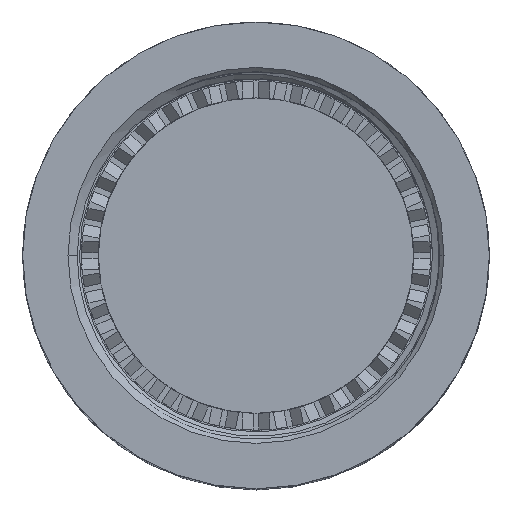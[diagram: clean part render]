
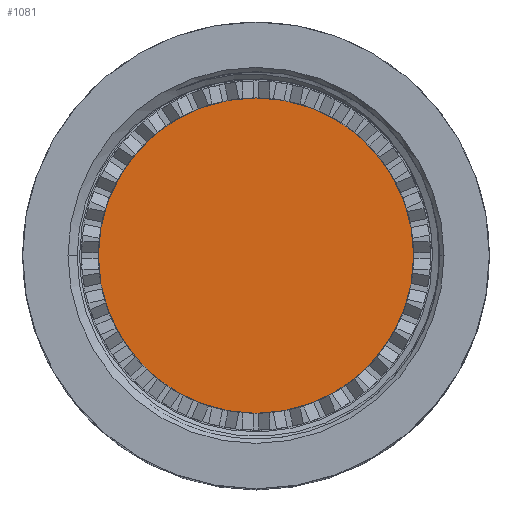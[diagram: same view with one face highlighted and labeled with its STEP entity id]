
A CAD part, top view. The second image highlights one B-rep face of the part: STEP entity #1081.
In plain terms, the highlighted planar face has unit normal (0, 0, 1).
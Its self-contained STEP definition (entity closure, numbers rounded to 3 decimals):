
#1081 = ADVANCED_FACE ( 'NONE', ( #1960 ), #4465, .F. ) ;
#1255 = DIRECTION ( 'NONE',  ( 0., 0., 1. ) ) ;
#1856 = CIRCLE ( 'NONE', #6535, 11.951 ) ;
#1960 = FACE_OUTER_BOUND ( 'NONE', #4125, .T. ) ;
#2007 = DIRECTION ( 'NONE',  ( -1., 0., 0. ) ) ;
#2110 = CARTESIAN_POINT ( 'NONE',  ( 0., 0., -2.011 ) ) ;
#2232 = CARTESIAN_POINT ( 'NONE',  ( 11.951, 0., -2.011 ) ) ;
#3104 = DIRECTION ( 'NONE',  ( -1., 0., 0. ) ) ;
#3493 = VERTEX_POINT ( 'NONE', #6366 ) ;
#3794 = ORIENTED_EDGE ( 'NONE', *, *, #6303, .T. ) ;
#4125 = EDGE_LOOP ( 'NONE', ( #3794, #6968 ) ) ;
#4262 = AXIS2_PLACEMENT_3D ( 'NONE', #7610, #1255, #3104 ) ;
#4465 = PLANE ( 'NONE',  #5489 ) ;
#5347 = EDGE_CURVE ( 'NONE', #3493, #7225, #6792, .T. ) ;
#5383 = DIRECTION ( 'NONE',  ( 0., 0., 1. ) ) ;
#5489 = AXIS2_PLACEMENT_3D ( 'NONE', #7687, #5810, #2007 ) ;
#5810 = DIRECTION ( 'NONE',  ( 0., 0., -1. ) ) ;
#5883 = DIRECTION ( 'NONE',  ( -1., 0., 0. ) ) ;
#6303 = EDGE_CURVE ( 'NONE', #7225, #3493, #1856, .T. ) ;
#6366 = CARTESIAN_POINT ( 'NONE',  ( -11.951, 0., -2.011 ) ) ;
#6535 = AXIS2_PLACEMENT_3D ( 'NONE', #2110, #5383, #5883 ) ;
#6792 = CIRCLE ( 'NONE', #4262, 11.951 ) ;
#6968 = ORIENTED_EDGE ( 'NONE', *, *, #5347, .T. ) ;
#7225 = VERTEX_POINT ( 'NONE', #2232 ) ;
#7610 = CARTESIAN_POINT ( 'NONE',  ( 0., 0., -2.011 ) ) ;
#7687 = CARTESIAN_POINT ( 'NONE',  ( 0., 0., -2.011 ) ) ;
